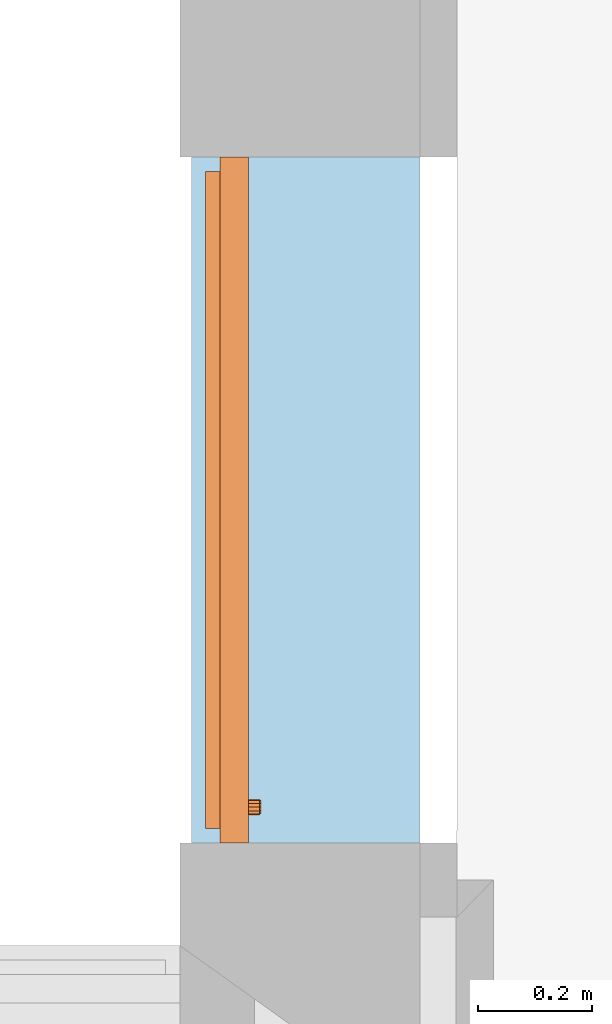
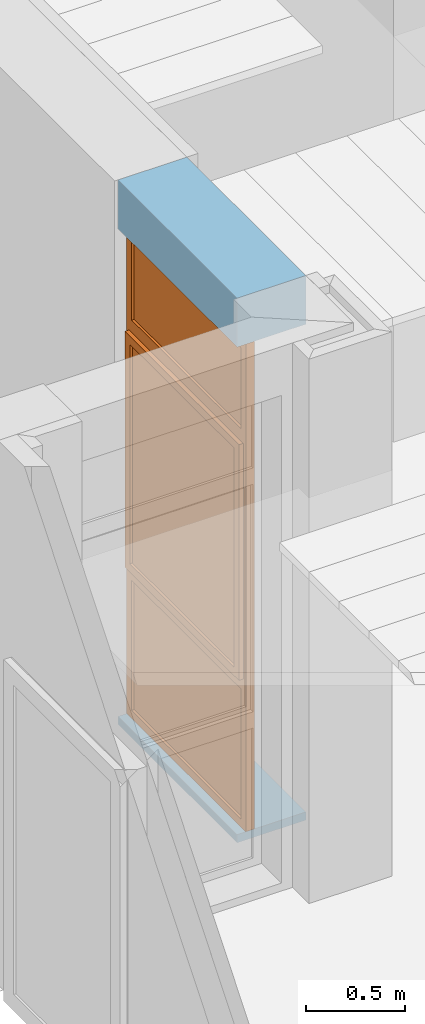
# One storey, part 52 of 60: 1 proxy, 1 opening, plus 1 element that does not belong to this part.
"""IFC2X3 building model written with IfcOpenShell, lengths in millimetres."""

from ifc_helpers import new_model, entity, si_unit, converted_unit, derived_unit, money_unit, direction, frame, origin_with_axes, origin_2d_with_axis, place, context, subcontext, project, spatial, polyline, rectangle, outline, extrude, open_shell, faceted_brep, surface_model, material, layer, layer_set, layer_usage, type_object, element, fill, save


model = new_model("IFC2X3")

# Units and contexts
model_context = context("Model", 3, precision=0.01, world=origin_with_axes(), true_north=direction((0.0, 1.0)))
body_context = subcontext(model_context, "Body", "Model", "MODEL_VIEW")
ifc_project = project(units=[si_unit("LENGTHUNIT", "METRE", prefix="MILLI"), si_unit("AREAUNIT", "SQUARE_METRE"), si_unit("VOLUMEUNIT", "CUBIC_METRE"), converted_unit("PLANEANGLEUNIT", "DEGREE", entity("IfcPlaneAngleMeasure", 0.0174532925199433), si_unit("PLANEANGLEUNIT", "RADIAN"), dimensions=[0, 0, 0, 0, 0, 0, 0]), money_unit("USD"), converted_unit("TIMEUNIT", "Year", entity("IfcTimeMeasure", 31557600.0), si_unit("TIMEUNIT", "SECOND"), dimensions=[0, 0, 1, 0, 0, 0, 0]), si_unit("MASSUNIT", "GRAM", prefix="KILO"), si_unit("THERMODYNAMICTEMPERATUREUNIT", "DEGREE_CELSIUS"), si_unit("LUMINOUSINTENSITYUNIT", "LUMEN"), si_unit("ENERGYUNIT", "JOULE", prefix="MEGA"), derived_unit("THERMALCONDUCTANCEUNIT", [(si_unit("POWERUNIT", "WATT"), 1), (si_unit("LENGTHUNIT", "METRE"), -1), (si_unit("THERMODYNAMICTEMPERATUREUNIT", "KELVIN"), -1)]), derived_unit("SPECIFICHEATCAPACITYUNIT", [(si_unit("ENERGYUNIT", "JOULE"), 1), (si_unit("MASSUNIT", "GRAM", prefix="KILO"), -1), (si_unit("THERMODYNAMICTEMPERATUREUNIT", "KELVIN"), -1)]), derived_unit("MASSDENSITYUNIT", [(si_unit("MASSUNIT", "GRAM", prefix="KILO"), 1), (si_unit("VOLUMEUNIT", "CUBIC_METRE"), -1)])], contexts=[model_context])

# Site, building, storey
site_placement = place(None, origin_with_axes())
site = spatial("IfcSite", under=ifc_project, at=site_placement, Name="Sitio", CompositionType="ELEMENT")
building_placement = place(site_placement, origin_with_axes())
building = spatial("IfcBuilding", under=site, at=building_placement, Name="Construcción", CompositionType="ELEMENT")
storey_placement = place(building_placement, frame((0.0, 0.0, 3650.0), z_axis=(0.0, 0.0, 1.0), x_axis=(1.0, 0.0, 0.0)))
storey = spatial("IfcBuildingStorey", under=building, at=storey_placement, Name="PLANTA 2ª", CompositionType="ELEMENT", Elevation=3650.0)

# Wall, opening, proxy
ifc_material_1 = material(Name="ARQ_AM246_Arrebossat_De_Guix")
ifc_layer_1 = layer(ifc_material_1, 10.0, ventilated="UNKNOWN")
ifc_material_2 = material(Name="ARQ_CE217_Gero")
ifc_layer_2 = layer(ifc_material_2, 150.0, ventilated="UNKNOWN")
ifc_material_3 = material(Name="ARQ_AI031_Aillament_Poliestireno expandido EPS")
ifc_layer_3 = layer(ifc_material_3, 150.0, ventilated="UNKNOWN")
ifc_material_4 = material(Name="ARQ_CE218_Ceramic")
ifc_layer_4 = layer(ifc_material_4, 80.0, ventilated="UNKNOWN")
ifc_layer_5 = layer(ifc_material_1, 10.0, ventilated="UNKNOWN")
ifc_layer_set = layer_set([ifc_layer_1, ifc_layer_2, ifc_layer_3, ifc_layer_4, ifc_layer_5], Name="façana pati CR1 (ampit)")
ifc_layer_usage = layer_usage(ifc_layer_set, "AXIS2", "POSITIVE", -400.0)
wall_type = type_object("IfcWallType", Name="façana pati CR1 (ampit) 400", PredefinedType="NOTDEFINED")
wall_placement = place(storey_placement, frame((-1681.109004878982, -10658.9758237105, 0.0), z_axis=(0.0, 0.0, 1.0), x_axis=(0.0, -1.0, 0.0)))
wall = element("IfcWallStandardCase", 1, at=wall_placement, inside=storey, type_object=wall_type, material=ifc_layer_usage, Name="MS-199", context=body_context, shape_type="SweptSolid", body=[
    extrude(outline(polyline([(0.0, -399.9999999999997), (1199.999999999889, -400.0000000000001), (1199.999999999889, 0.0), (0.0, 0.0), (0.0, -399.9999999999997)])), origin_with_axes(), (0.0, 0.0, 1.0), 3350.0),
])
opening_placement = place(wall_placement, frame((599.9999999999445, 0.0, 49.99999999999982), z_axis=(0.0, 0.0, 1.0), x_axis=(1.0, 0.0, 0.0)))
opening = element("IfcOpeningElement", 2, at=opening_placement, cuts=wall, Name="F01", context=body_context, shape_type="SweptSolid", body=[
    extrude(rectangle(XDim=1199.999999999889, YDim=3000.0, at=origin_2d_with_axis()), frame((0.0, -350.0000000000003, 1500.0), z_axis=(0.0, -1.0, 0.0), x_axis=(-1.0, 0.0, 0.0)), (0.0, 0.0, -1.0), 750.0),
    extrude(rectangle(XDim=1199.999999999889, YDim=3000.0, at=origin_2d_with_axis()), frame((0.0, -350.0000000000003, 1500.0), z_axis=(0.0, 1.0, 0.0), x_axis=(-1.0, 0.0, 0.0)), (0.0, 0.0, -1.0), 450.0),
])
building_element_proxy_type = type_object("IfcBuildingElementProxyType", Name="Ventana Vertical Multi-Faja 27", PredefinedType="NOTDEFINED")
proxy_placement = place(opening_placement, frame((599.9999999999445, 0.0, 0.0), z_axis=(0.0, 0.0, 1.0), x_axis=(-1.0, 0.0, 0.0)))
proxy = element("IfcBuildingElementProxy", 3, at=proxy_placement, inside=storey, type_object=building_element_proxy_type, Name="F01", context=body_context, shape_type="SurfaceModel", body=[
    faceted_brep([(25.00000000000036, 350.0000000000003, 925.0000000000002), (49.99999999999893, 350.0000000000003, 925.0000000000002), (49.99999999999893, 350.0000000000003, 850.0000000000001), (49.99999999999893, 350.0000000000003, 50.00000000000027), (0.0, 350.0000000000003, 50.00000000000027), (0.0, 349.9999999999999, 2950.0), (49.99999999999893, 349.9999999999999, 2950.0), (49.99999999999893, 349.9999999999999, 2450.0), (49.99999999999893, 349.9999999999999, 2375.0), (25.00000000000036, 349.9999999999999, 2375.0), (25.00000000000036, 325.0000000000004, 925.0000000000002), (49.99999999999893, 325.0000000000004, 925.0000000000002), (49.99999999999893, 325.0000000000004, 949.9999999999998), (49.99999999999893, 300.0000000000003, 949.9999999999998), (49.99999999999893, 300.0000000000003, 850.0000000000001), (49.99999999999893, 300.0000000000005, 50.00000000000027), (0.0, 300.0000000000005, 50.00000000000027), (0.0, 300.0000000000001, 2950.0), (49.99999999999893, 300.0000000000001, 2950.0), (49.99999999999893, 300.0000000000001, 2450.0), (49.99999999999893, 324.9999999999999, 2375.0), (49.99999999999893, 300.0000000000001, 2350.0), (49.99999999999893, 324.9999999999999, 2350.0), (25.00000000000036, 324.9999999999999, 2375.0)], [[[0, 1, 2, 3, 4, 5, 6, 7, 8, 9]], [[0, 10, 11, 1]], [[11, 12, 13, 14, 2, 1]], [[3, 2, 14, 15]], [[4, 3, 15, 16]], [[5, 4, 16, 17]], [[6, 5, 17, 18]], [[7, 6, 18, 19]], [[20, 8, 7, 19, 21, 22]], [[20, 23, 9, 8]], [[9, 23, 10, 0]], [[22, 12, 11, 10, 23, 20]], [[22, 21, 13, 12]], [[17, 16, 15, 14, 13, 21, 19, 18]]]),
    faceted_brep([(1174.999999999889, 349.9999999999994, 925.0000000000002), (1174.999999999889, 349.9999999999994, 2375.0), (1149.99999999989, 349.9999999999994, 2375.0), (1149.99999999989, 349.9999999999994, 2450.0), (1149.99999999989, 349.999999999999, 2950.0), (1199.999999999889, 349.999999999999, 2950.0), (1199.999999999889, 349.9999999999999, 50.00000000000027), (1149.99999999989, 349.9999999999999, 50.00000000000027), (1149.99999999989, 349.9999999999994, 850.0000000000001), (1149.99999999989, 349.9999999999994, 925.0000000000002), (1174.999999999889, 324.9999999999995, 925.0000000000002), (1174.999999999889, 324.9999999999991, 2375.0), (1149.99999999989, 324.9999999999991, 2375.0), (1149.99999999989, 324.9999999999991, 2350.0), (1149.99999999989, 299.9999999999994, 2350.0), (1149.99999999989, 299.9999999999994, 2450.0), (1149.99999999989, 299.9999999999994, 2950.0), (1199.999999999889, 299.9999999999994, 2950.0), (1199.999999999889, 299.9999999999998, 50.00000000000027), (1149.99999999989, 299.9999999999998, 50.00000000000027), (1149.99999999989, 299.9999999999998, 850.0000000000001), (1149.99999999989, 324.9999999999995, 925.0000000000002), (1149.99999999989, 299.9999999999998, 949.9999999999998), (1149.99999999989, 324.9999999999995, 949.9999999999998)], [[[0, 1, 2, 3, 4, 5, 6, 7, 8, 9]], [[0, 10, 11, 1]], [[1, 11, 12, 2]], [[12, 13, 14, 15, 3, 2]], [[4, 3, 15, 16]], [[5, 4, 16, 17]], [[6, 5, 17, 18]], [[7, 6, 18, 19]], [[8, 7, 19, 20]], [[21, 9, 8, 20, 22, 23]], [[9, 21, 10, 0]], [[12, 11, 10, 21, 23, 13]], [[23, 22, 14, 13]], [[14, 22, 20, 19, 18, 17, 16, 15]]]),
    faceted_brep([(49.99999999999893, 325.0000000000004, 949.9999999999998), (49.99999999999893, 300.0000000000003, 949.9999999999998), (1149.99999999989, 299.9999999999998, 949.9999999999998), (1149.99999999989, 324.9999999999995, 949.9999999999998), (49.99999999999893, 325.0000000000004, 925.0000000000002), (49.99999999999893, 350.0000000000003, 925.0000000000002), (49.99999999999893, 350.0000000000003, 850.0000000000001), (49.99999999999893, 300.0000000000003, 850.0000000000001), (1149.99999999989, 299.9999999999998, 850.0000000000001), (1149.99999999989, 324.9999999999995, 925.0000000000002), (1149.99999999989, 349.9999999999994, 850.0000000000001), (1149.99999999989, 349.9999999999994, 925.0000000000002)], [[[0, 1, 2, 3]], [[4, 5, 6, 7, 1, 0]], [[1, 7, 8, 2]], [[9, 3, 2, 8, 10, 11]], [[9, 4, 0, 3]], [[5, 4, 9, 11]], [[11, 10, 6, 5]], [[6, 10, 8, 7]]]),
    faceted_brep([(49.99999999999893, 349.9999999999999, 2375.0), (49.99999999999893, 349.9999999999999, 2450.0), (1149.99999999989, 349.9999999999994, 2450.0), (1149.99999999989, 349.9999999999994, 2375.0), (49.99999999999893, 324.9999999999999, 2375.0), (49.99999999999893, 324.9999999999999, 2350.0), (49.99999999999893, 300.0000000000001, 2350.0), (49.99999999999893, 300.0000000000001, 2450.0), (1149.99999999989, 299.9999999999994, 2450.0), (1149.99999999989, 324.9999999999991, 2375.0), (1149.99999999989, 299.9999999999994, 2350.0), (1149.99999999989, 324.9999999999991, 2350.0)], [[[0, 1, 2, 3]], [[4, 5, 6, 7, 1, 0]], [[2, 1, 7, 8]], [[9, 3, 2, 8, 10, 11]], [[9, 4, 0, 3]], [[11, 5, 4, 9]], [[11, 10, 6, 5]], [[7, 6, 10, 8]]]),
    faceted_brep([(1149.99999999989, 299.9999999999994, 2950.0), (1149.99999999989, 349.999999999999, 2950.0), (1199.999999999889, 349.999999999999, 2950.0), (1199.999999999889, 299.9999999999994, 2950.0), (49.99999999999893, 300.0000000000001, 2950.0), (49.99999999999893, 349.9999999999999, 2950.0), (0.0, 349.9999999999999, 2950.0), (0.0, 349.9999999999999, 3000.0), (1199.999999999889, 349.999999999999, 3000.0), (1199.999999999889, 299.9999999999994, 3000.0), (0.0, 300.0000000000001, 3000.0), (0.0, 300.0000000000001, 2950.0)], [[[0, 1, 2, 3]], [[4, 5, 1, 0]], [[1, 5, 6, 7, 8, 2]], [[3, 2, 8, 9]], [[0, 3, 9, 10, 11, 4]], [[11, 6, 5, 4]], [[10, 7, 6, 11]], [[9, 8, 7, 10]]]),
    faceted_brep([(49.99999999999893, 300.0000000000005, 49.99999999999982), (49.99999999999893, 350.0000000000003, 49.99999999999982), (0.0, 350.0000000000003, 49.99999999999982), (0.0, 300.0000000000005, 49.99999999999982), (1149.99999999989, 299.9999999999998, 49.99999999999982), (1149.99999999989, 349.9999999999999, 49.99999999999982), (1199.999999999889, 349.9999999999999, 49.99999999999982), (1199.999999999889, 349.9999999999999, 0.0), (0.0, 350.0000000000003, 0.0), (0.0, 300.0000000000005, 0.0), (1199.999999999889, 299.9999999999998, 0.0), (1199.999999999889, 299.9999999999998, 49.99999999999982)], [[[0, 1, 2, 3]], [[4, 5, 1, 0]], [[1, 5, 6, 7, 8, 2]], [[3, 2, 8, 9]], [[0, 3, 9, 10, 11, 4]], [[11, 6, 5, 4]], [[10, 7, 6, 11]], [[9, 8, 7, 10]]]),
    surface_model("IfcShellBasedSurfaceModel", [(49.99999999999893, 315.0000000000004, 49.99999999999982), (1149.99999999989, 314.9999999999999, 49.99999999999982), (1149.99999999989, 314.9999999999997, 850.0000000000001), (49.99999999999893, 315.0000000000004, 850.0000000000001)], [open_shell([[[0, 1, 2, 3]]])]),
    surface_model("IfcShellBasedSurfaceModel", [(49.99999999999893, 335.0000000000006, 49.99999999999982), (49.99999999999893, 335.0000000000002, 850.0000000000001), (1149.99999999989, 334.9999999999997, 850.0000000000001), (1149.99999999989, 334.9999999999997, 49.99999999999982)], [open_shell([[[0, 1, 2, 3]]])]),
    faceted_brep([(78.50000000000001, 324.9999999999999, 1677.0), (77.16025403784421, 324.9999999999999, 1682.0), (77.16025403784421, 313.0000000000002, 1682.0), (78.50000000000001, 313.0000000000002, 1677.0), (78.50000000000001, 324.9999999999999, 1623.0), (77.16025403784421, 324.9999999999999, 1618.0), (73.49999999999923, 324.9999999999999, 1614.339745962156), (68.50000000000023, 324.9999999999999, 1613.0), (56.49999999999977, 325.0000000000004, 1613.0), (51.49999999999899, 325.0000000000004, 1614.339745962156), (47.83974596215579, 325.0000000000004, 1618.0), (46.49999999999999, 325.0000000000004, 1623.0), (46.49999999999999, 324.9999999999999, 1677.0), (47.83974596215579, 324.9999999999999, 1682.0), (51.49999999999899, 324.9999999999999, 1685.660254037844), (56.49999999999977, 324.9999999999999, 1687.0), (68.50000000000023, 324.9999999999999, 1687.0), (73.49999999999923, 324.9999999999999, 1685.660254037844), (73.49999999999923, 313.0000000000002, 1685.660254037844), (68.50000000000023, 313.0000000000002, 1687.0), (56.49999999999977, 313.0000000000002, 1687.0), (51.49999999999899, 313.0000000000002, 1685.660254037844), (47.83974596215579, 313.0000000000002, 1682.0), (46.49999999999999, 313.0000000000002, 1677.0), (46.49999999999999, 313.0000000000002, 1623.0), (47.83974596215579, 313.0000000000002, 1618.0), (51.49999999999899, 313.0000000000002, 1614.339745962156), (56.49999999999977, 313.0000000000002, 1613.0), (68.50000000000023, 313.0000000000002, 1613.0), (73.49999999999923, 313.0000000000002, 1614.339745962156), (77.16025403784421, 313.0000000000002, 1618.0), (78.50000000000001, 313.0000000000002, 1623.0)], [[[0, 1, 2, 3]], [[0, 4, 5, 6, 7, 8, 9, 10, 11, 12, 13, 14, 15, 16, 17, 1]], [[1, 17, 18, 2]], [[3, 2, 18, 19, 20, 21, 22, 23, 24, 25, 26, 27, 28, 29, 30, 31]], [[4, 0, 3, 31]], [[5, 4, 31, 30]], [[6, 5, 30, 29]], [[7, 6, 29, 28]], [[8, 7, 28, 27]], [[9, 8, 27, 26]], [[10, 9, 26, 25]], [[11, 10, 25, 24]], [[12, 11, 24, 23]], [[13, 12, 23, 22]], [[14, 13, 22, 21]], [[15, 14, 21, 20]], [[16, 15, 20, 19]], [[17, 16, 19, 18]]]),
    faceted_brep([(62.5, 313.0000000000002, 1663.5), (55.74999999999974, 313.0000000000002, 1661.69134295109), (55.74999999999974, 289.0000000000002, 1661.69134295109), (62.5, 289.0000000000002, 1663.5), (69.25000000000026, 313.0000000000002, 1661.69134295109), (74.19134295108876, 313.0000000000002, 1656.75), (76.00000000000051, 313.0000000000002, 1650.0), (74.19134295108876, 313.0000000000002, 1643.25), (69.25000000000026, 313.0000000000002, 1638.30865704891), (62.5, 313.0000000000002, 1636.499999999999), (55.74999999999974, 313.0000000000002, 1638.30865704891), (50.80865704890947, 313.0000000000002, 1643.25), (48.99999999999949, 313.0000000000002, 1650.0), (50.80865704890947, 313.0000000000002, 1656.75), (50.80865704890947, 289.0000000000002, 1656.75), (48.99999999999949, 289.0000000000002, 1650.0), (50.80865704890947, 289.0000000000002, 1643.25), (55.74999999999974, 289.0000000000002, 1638.30865704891), (62.5, 289.0000000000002, 1636.499999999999), (69.25000000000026, 289.0000000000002, 1638.30865704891), (74.19134295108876, 289.0000000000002, 1643.25), (76.00000000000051, 289.0000000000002, 1650.0), (74.19134295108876, 289.0000000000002, 1656.75), (69.25000000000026, 289.0000000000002, 1661.69134295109)], [[[0, 1, 2, 3]], [[0, 4, 5, 6, 7, 8, 9, 10, 11, 12, 13, 1]], [[1, 13, 14, 2]], [[3, 2, 14, 15, 16, 17, 18, 19, 20, 21, 22, 23]], [[4, 0, 3, 23]], [[5, 4, 23, 22]], [[6, 5, 22, 21]], [[7, 6, 21, 20]], [[8, 7, 20, 19]], [[9, 8, 19, 18]], [[10, 9, 18, 17]], [[11, 10, 17, 16]], [[12, 11, 16, 15]], [[13, 12, 15, 14]]]),
    faceted_brep([(73.99999999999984, 289.0000000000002, 1543.0), (62.5, 289.0000000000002, 1540.0), (51.00000000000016, 289.0000000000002, 1543.0), (48.99999999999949, 289.0000000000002, 1546.0), (48.99999999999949, 289.0000000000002, 1650.0), (50.80865704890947, 289.0000000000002, 1656.75), (55.74999999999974, 289.0000000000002, 1661.69134295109), (62.5, 289.0000000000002, 1663.5), (69.25000000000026, 289.0000000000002, 1661.69134295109), (74.19134295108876, 289.0000000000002, 1656.75), (76.00000000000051, 289.0000000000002, 1650.0), (76.00000000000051, 289.0000000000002, 1546.0), (74.00000006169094, 281.0000000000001, 1543.000000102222), (62.5000000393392, 281.0000000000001, 1539.999999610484), (51.00000001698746, 281.0000000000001, 1543.000000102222), (48.99999968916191, 281.0000000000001, 1545.999999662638), (48.99999968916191, 281.0000000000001, 1649.99999994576), (50.80865700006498, 281.0000000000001, 1656.749999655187), (55.75000032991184, 281.0000000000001, 1661.691342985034), (62.5000000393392, 281.0000000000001, 1663.500000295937), (69.24999974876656, 281.0000000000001, 1661.691342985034), (74.19134307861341, 281.0000000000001, 1656.749999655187), (76.00000038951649, 281.0000000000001, 1649.99999994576), (76.00000038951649, 281.0000000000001, 1545.999999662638), (72.13746253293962, 278.0000004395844, 1545.61451963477), (62.5000000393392, 278.0000004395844, 1543.100398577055), (52.86253754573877, 278.0000004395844, 1545.61451963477), (51.99999924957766, 278.0000004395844, 1546.908326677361), (51.99999924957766, 278.0000004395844, 1649.605042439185), (53.49838296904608, 278.0000004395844, 1655.197085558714), (57.30291442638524, 278.0000004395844, 1659.001617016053), (62.5000000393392, 278.0000004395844, 1660.394172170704), (67.69708565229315, 278.0000004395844, 1659.001617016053), (71.50161710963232, 278.0000004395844, 1655.197085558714), (73.00000082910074, 278.0000004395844, 1649.605042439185), (73.00000082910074, 278.0000004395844, 1546.908326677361)], [[[0, 1, 2, 3, 4, 5, 6, 7, 8, 9, 10, 11]], [[1, 0, 12, 13]], [[2, 1, 13, 14]], [[3, 2, 14, 15]], [[4, 3, 15, 16]], [[5, 4, 16, 17]], [[6, 5, 17, 18]], [[7, 6, 18, 19]], [[8, 7, 19, 20]], [[9, 8, 20, 21]], [[10, 9, 21, 22]], [[11, 10, 22, 23]], [[0, 11, 23, 12]], [[13, 12, 24, 25]], [[14, 13, 25, 26]], [[15, 14, 26, 27]], [[16, 15, 27, 28]], [[17, 16, 28, 29]], [[18, 17, 29, 30]], [[19, 18, 30, 31]], [[20, 19, 31, 32]], [[21, 20, 32, 33]], [[22, 21, 33, 34]], [[23, 22, 34, 35]], [[12, 23, 35, 24]], [[26, 25, 24, 35, 34, 33, 32, 31, 30, 29, 28, 27]]]),
    faceted_brep([(74.99999999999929, 324.9999999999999, 2325.0), (74.99999999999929, 375.0000000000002, 2325.0), (25.00000000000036, 375.0000000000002, 2325.0), (25.00000000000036, 324.9999999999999, 2325.0), (74.99999999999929, 325.0000000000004, 975.0000000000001), (74.99999999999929, 375.0000000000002, 975.0000000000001), (25.00000000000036, 375.0000000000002, 975.0000000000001), (25.00000000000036, 325.0000000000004, 975.0000000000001)], [[[0, 1, 2, 3]], [[4, 5, 1, 0]], [[1, 5, 6, 2]], [[3, 2, 6, 7]], [[0, 3, 7, 4]], [[7, 6, 5, 4]]]),
    faceted_brep([(1124.99999999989, 324.9999999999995, 975.0000000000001), (1124.99999999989, 374.9999999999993, 975.0000000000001), (1174.999999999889, 374.9999999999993, 975.0000000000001), (1174.999999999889, 324.9999999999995, 975.0000000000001), (1124.99999999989, 324.9999999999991, 2325.0), (1124.99999999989, 374.9999999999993, 2325.0), (1174.999999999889, 374.9999999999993, 2325.0), (1174.999999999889, 324.9999999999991, 2325.0)], [[[0, 1, 2, 3]], [[4, 5, 1, 0]], [[1, 5, 6, 2]], [[3, 2, 6, 7]], [[0, 3, 7, 4]], [[7, 6, 5, 4]]]),
    faceted_brep([(1174.999999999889, 324.9999999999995, 925.0000000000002), (1174.999999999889, 374.9999999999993, 925.0000000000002), (1174.999999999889, 374.9999999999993, 975.0000000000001), (1174.999999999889, 324.9999999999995, 975.0000000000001), (25.00000000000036, 325.0000000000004, 925.0000000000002), (25.00000000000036, 375.0000000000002, 925.0000000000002), (25.00000000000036, 375.0000000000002, 975.0000000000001), (74.99999999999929, 375.0000000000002, 975.0000000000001), (1124.99999999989, 374.9999999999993, 975.0000000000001), (1124.99999999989, 324.9999999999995, 975.0000000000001), (74.99999999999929, 325.0000000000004, 975.0000000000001), (25.00000000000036, 325.0000000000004, 975.0000000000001)], [[[0, 1, 2, 3]], [[4, 5, 1, 0]], [[1, 5, 6, 7, 8, 2]], [[3, 2, 8, 9]], [[0, 3, 9, 10, 11, 4]], [[11, 6, 5, 4]], [[10, 7, 6, 11]], [[9, 8, 7, 10]]]),
    faceted_brep([(25.00000000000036, 324.9999999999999, 2375.0), (25.00000000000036, 375.0000000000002, 2375.0), (25.00000000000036, 375.0000000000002, 2325.0), (25.00000000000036, 324.9999999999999, 2325.0), (1174.999999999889, 324.9999999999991, 2375.0), (1174.999999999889, 374.9999999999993, 2375.0), (1174.999999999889, 374.9999999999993, 2325.0), (1124.99999999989, 374.9999999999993, 2325.0), (74.99999999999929, 375.0000000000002, 2325.0), (74.99999999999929, 324.9999999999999, 2325.0), (1124.99999999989, 324.9999999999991, 2325.0), (1174.999999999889, 324.9999999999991, 2325.0)], [[[0, 1, 2, 3]], [[4, 5, 1, 0]], [[1, 5, 6, 7, 8, 2]], [[3, 2, 8, 9]], [[0, 3, 9, 10, 11, 4]], [[11, 6, 5, 4]], [[10, 7, 6, 11]], [[9, 8, 7, 10]]]),
    surface_model("IfcShellBasedSurfaceModel", [(74.99999999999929, 340.0000000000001, 975.0000000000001), (1124.99999999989, 339.9999999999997, 975.0000000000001), (1124.99999999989, 339.9999999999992, 2325.0), (74.99999999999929, 340.0000000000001, 2325.0)], [open_shell([[[0, 1, 2, 3]]])]),
    surface_model("IfcShellBasedSurfaceModel", [(74.99999999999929, 360.0000000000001, 975.0000000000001), (74.99999999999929, 360.0000000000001, 2325.0), (1124.99999999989, 359.9999999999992, 2325.0), (1124.99999999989, 359.9999999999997, 975.0000000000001)], [open_shell([[[0, 1, 2, 3]]])]),
    surface_model("IfcShellBasedSurfaceModel", [(49.99999999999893, 314.9999999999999, 2450.0), (1149.99999999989, 314.9999999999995, 2450.0), (1149.99999999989, 314.9999999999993, 2950.0), (49.99999999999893, 314.9999999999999, 2950.0)], [open_shell([[[0, 1, 2, 3]]])]),
    surface_model("IfcShellBasedSurfaceModel", [(49.99999999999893, 335.0000000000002, 2450.0), (49.99999999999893, 334.9999999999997, 2950.0), (1149.99999999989, 334.9999999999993, 2950.0), (1149.99999999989, 334.9999999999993, 2450.0)], [open_shell([[[0, 1, 2, 3]]])]),
])
fill(opening, proxy)

save(model, "model.ifc")
